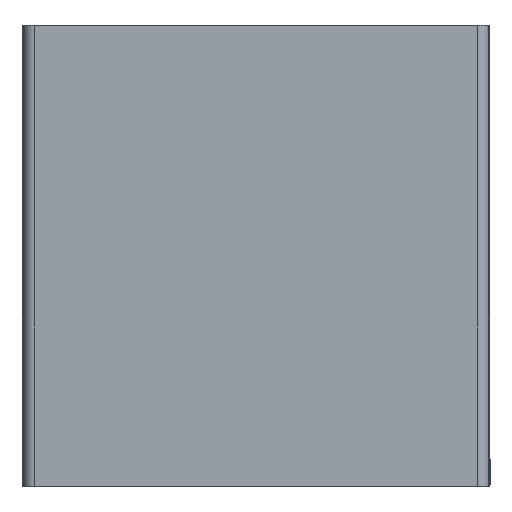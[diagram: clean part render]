
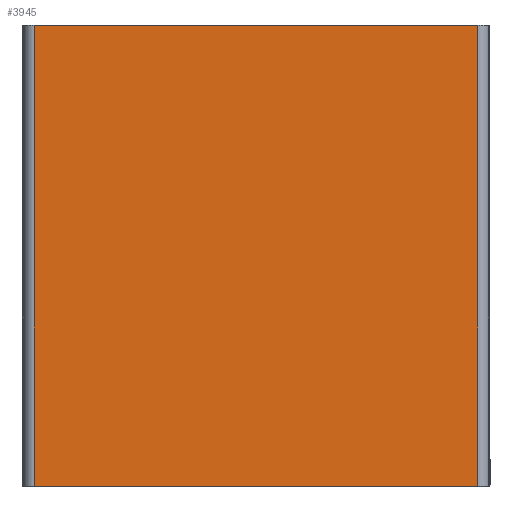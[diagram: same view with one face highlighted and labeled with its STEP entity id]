
A CAD part, top view. The second image highlights one B-rep face of the part: STEP entity #3945.
In plain terms, the highlighted planar face has unit normal (0, 0, 1).
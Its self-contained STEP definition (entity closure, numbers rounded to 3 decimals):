
#3535=CARTESIAN_POINT('',(-523.438,544.0,0.0));
#3536=VERTEX_POINT('',#3535);
#3561=CARTESIAN_POINT('',(523.438,544.,0.0));
#3562=VERTEX_POINT('',#3561);
#3563=CARTESIAN_POINT('',(-523.438,544.,0.0));
#3564=DIRECTION('',(1.0,0.0,0.0));
#3565=VECTOR('',#3564,1046.876);
#3566=LINE('',#3563,#3565);
#3567=EDGE_CURVE('',#3536,#3562,#3566,.T.);
#3744=CARTESIAN_POINT('',(523.438,-544.,0.0));
#3745=VERTEX_POINT('',#3744);
#3776=CARTESIAN_POINT('',(-523.438,-544.0,0.0));
#3777=VERTEX_POINT('',#3776);
#3778=CARTESIAN_POINT('',(523.438,-544.,0.0));
#3779=DIRECTION('',(-1.0,0.0,0.0));
#3780=VECTOR('',#3779,1046.876);
#3781=LINE('',#3778,#3780);
#3782=EDGE_CURVE('',#3745,#3777,#3781,.T.);
#3918=CARTESIAN_POINT('',(523.438,-544.,0.0));
#3919=DIRECTION('',(0.0,1.0,0.0));
#3920=VECTOR('',#3919,1088.);
#3921=LINE('',#3918,#3920);
#3922=EDGE_CURVE('',#3745,#3562,#3921,.T.);
#3929=CARTESIAN_POINT('',(0.0,0.,0.0));
#3930=DIRECTION('',(0.0,0.0,1.0));
#3931=DIRECTION('',(1.0,0.0,0.0));
#3932=AXIS2_PLACEMENT_3D('',#3929,#3930,#3931);
#3933=PLANE('',#3932);
#3934=ORIENTED_EDGE('',*,*,#3567,.F.);
#3935=CARTESIAN_POINT('',(-523.438,544.0,0.0));
#3936=DIRECTION('',(0.0,-1.0,0.0));
#3937=VECTOR('',#3936,1088.0);
#3938=LINE('',#3935,#3937);
#3939=EDGE_CURVE('',#3536,#3777,#3938,.T.);
#3940=ORIENTED_EDGE('',*,*,#3939,.T.);
#3941=ORIENTED_EDGE('',*,*,#3782,.F.);
#3942=ORIENTED_EDGE('',*,*,#3922,.T.);
#3943=EDGE_LOOP('',(#3934,#3940,#3941,#3942));
#3944=FACE_OUTER_BOUND('',#3943,.T.);
#3945=ADVANCED_FACE('',(#3944),#3933,.T.);
